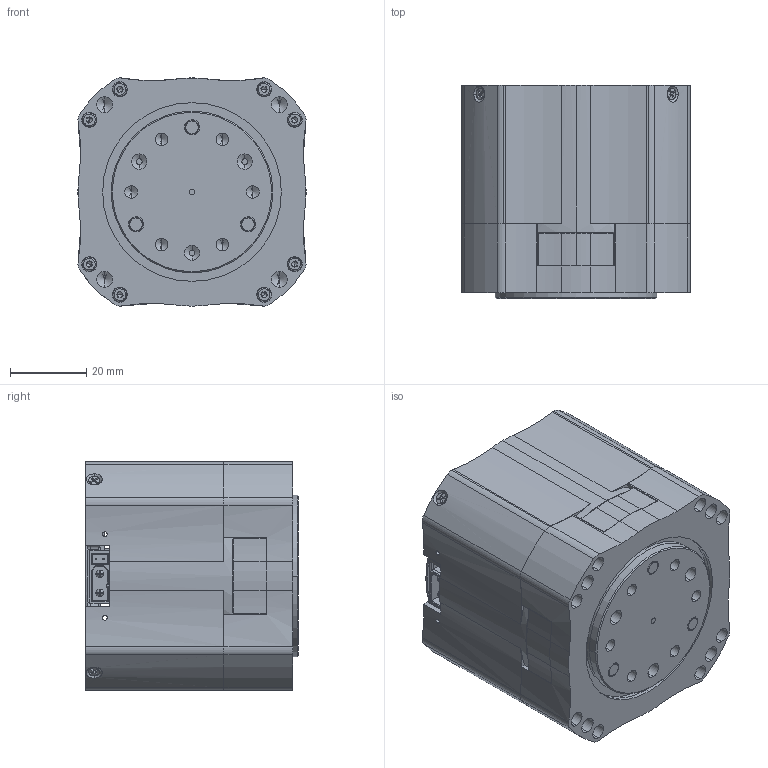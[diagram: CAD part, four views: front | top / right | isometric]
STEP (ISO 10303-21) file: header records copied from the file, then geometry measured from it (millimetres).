
FILE_DESCRIPTION (( 'STEP AP214' ), '1' );
FILE_NAME ('HTDW-6036-02-CNE.STEP', '2025-12-24T08:37:08', ( '' ), ( '' ), 'SwSTEP 2.0', 'SolidWorks 2024', '' );
FILE_SCHEMA (( 'AUTOMOTIVE_DESIGN' ));
Length unit declared in the file: millimetre
Products named in the file (13): 6056交叉滚子版本输出盘-1.2; m4-20-5.5杯头内六角螺丝; M2.5-10-3.7杯头螺丝; 6056交叉滚子版本正装轴承座-1.1; m2-4-3十字沉头螺丝; 6056-外壳-1.6; 3D_双编-6056-V1.4_2025-02-271.5-1.6; 6056-二级8速比内齿-1.6; 6056-编码器销钉-1.6_35.5; 6056-电机盖-1.6; HTDW-6036-02-CNE; 垫片-1.1; CRBT 405 A0914-1.1
Assembly tree (24 placements, depth 2):
  HTDW-6036-02-CNE
    6056-外壳-1.6
    3D_双编-6056-V1.4_2025-02-271.5-1.6
    6056-编码器销钉-1.6_35.5
    6056-电机盖-1.6
    6056-二级8速比内齿-1.6
    m4-20-5.5杯头内六角螺丝  x3
    M2.5-10-3.7杯头螺丝  x8
    m2-4-3十字沉头螺丝  x4
    6056交叉滚子版本输出盘-1.2
    6056交叉滚子版本正装轴承座-1.1
    垫片-1.1
    CRBT 405 A0914-1.1
Bounding box: 60 x 56 x 60 mm (x, y, z)
Volume: 77720 mm3; surface area: 71394 mm2
Topology: 26 solids, 26 shells, 3669 faces, 10270 edges, 6724 vertices
Faces by surface type: cylinder 1772, plane 1212, bspline 448, cone 183, torus 38, sphere 16
Entity records: 118980 total; most frequent: CARTESIAN_POINT 30972, ORIENTED_EDGE 19164, DIRECTION 16894, EDGE_CURVE 9582, VERTEX_POINT 6364, AXIS2_PLACEMENT_3D 6184, LINE 4526, VECTOR 4526
